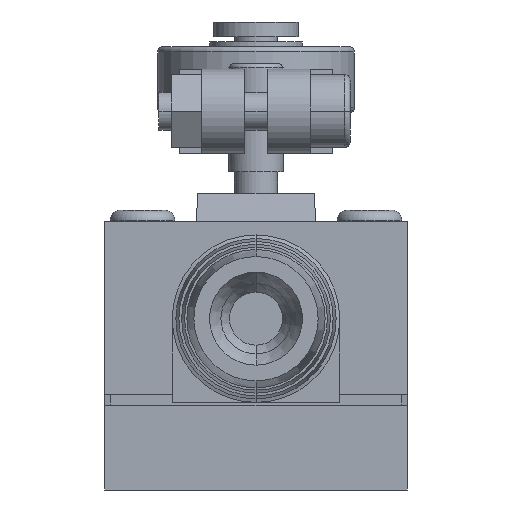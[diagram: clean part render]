
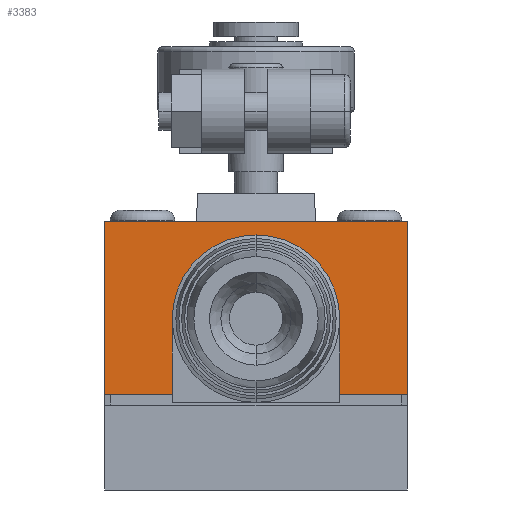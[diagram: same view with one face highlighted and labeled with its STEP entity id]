
A CAD part, front view. The second image highlights one B-rep face of the part: STEP entity #3383.
In plain terms, the highlighted planar face has unit normal (0, -1, 0).
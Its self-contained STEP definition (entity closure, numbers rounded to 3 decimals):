
#112 = VERTEX_POINT ( 'NONE', #13096 ) ;
#381 = FACE_OUTER_BOUND ( 'NONE', #12830, .T. ) ;
#385 = AXIS2_PLACEMENT_3D ( 'NONE', #13300, #13301, #13302 ) ;
#404 = FACE_BOUND ( 'NONE', #12829, .T. ) ;
#1221 = CARTESIAN_POINT ( 'NONE',  ( 0., -22.525, 15.85 ) ) ;
#1225 = DIRECTION ( 'NONE',  ( 0., -1., 0. ) ) ;
#1226 = DIRECTION ( 'NONE',  ( 0., 0., 1. ) ) ;
#1228 = LINE ( 'NONE', #1229, #4369 ) ;
#1229 = CARTESIAN_POINT ( 'NONE',  ( 14., -22.525, 24.8 ) ) ;
#1230 = DIRECTION ( 'NONE',  ( -1., 0., 0. ) ) ;
#1231 = LINE ( 'NONE', #1232, #4367 ) ;
#1232 = CARTESIAN_POINT ( 'NONE',  ( 14., -22.525, 24.8 ) ) ;
#1233 = DIRECTION ( 'NONE',  ( 0., 0., -1. ) ) ;
#1234 = LINE ( 'NONE', #1235, #4364 ) ;
#1235 = CARTESIAN_POINT ( 'NONE',  ( -14., -22.525, 24.8 ) ) ;
#1236 = DIRECTION ( 'NONE',  ( 0., 0., -1. ) ) ;
#1249 = LINE ( 'NONE', #1250, #4350 ) ;
#1250 = CARTESIAN_POINT ( 'NONE',  ( -14., -22.525, 8.85 ) ) ;
#1251 = DIRECTION ( 'NONE',  ( 1., 0., 0. ) ) ;
#3383 = ADVANCED_FACE ( 'NONE', ( #381, #404 ), #13299, .F. ) ;
#3628 = CIRCLE ( 'NONE', #4959, 4.75 ) ;
#3754 = CIRCLE ( 'NONE', #4419, 4.75 ) ;
#4350 = VECTOR ( 'NONE', #1251, 1000. ) ;
#4364 = VECTOR ( 'NONE', #1236, 1000. ) ;
#4367 = VECTOR ( 'NONE', #1233, 1000. ) ;
#4369 = VECTOR ( 'NONE', #1230, 1000. ) ;
#4419 = AXIS2_PLACEMENT_3D ( 'NONE', #1221, #1225, #1226 ) ;
#4665 = EDGE_CURVE ( 'NONE', #6329, #112, #3628, .T. ) ;
#4959 = AXIS2_PLACEMENT_3D ( 'NONE', #8783, #8791, #8793 ) ;
#6329 = VERTEX_POINT ( 'NONE', #9615 ) ;
#6391 = VERTEX_POINT ( 'NONE', #9738 ) ;
#6401 = VERTEX_POINT ( 'NONE', #9758 ) ;
#6450 = VERTEX_POINT ( 'NONE', #9855 ) ;
#6464 = VERTEX_POINT ( 'NONE', #9882 ) ;
#7792 = EDGE_CURVE ( 'NONE', #112, #6329, #3754, .T. ) ;
#7793 = EDGE_CURVE ( 'NONE', #6391, #6450, #1228, .T. ) ;
#7794 = EDGE_CURVE ( 'NONE', #6391, #6401, #1231, .T. ) ;
#7795 = EDGE_CURVE ( 'NONE', #6450, #6464, #1234, .T. ) ;
#7800 = EDGE_CURVE ( 'NONE', #6464, #6401, #1249, .T. ) ;
#8783 = CARTESIAN_POINT ( 'NONE',  ( 0., -22.525, 15.85 ) ) ;
#8791 = DIRECTION ( 'NONE',  ( 0., -1., 0. ) ) ;
#8793 = DIRECTION ( 'NONE',  ( 0., 0., 1. ) ) ;
#9615 = CARTESIAN_POINT ( 'NONE',  ( 0., -22.525, 11.1 ) ) ;
#9738 = CARTESIAN_POINT ( 'NONE',  ( 14., -22.525, 24.8 ) ) ;
#9758 = CARTESIAN_POINT ( 'NONE',  ( 14., -22.525, 8.85 ) ) ;
#9855 = CARTESIAN_POINT ( 'NONE',  ( -14., -22.525, 24.8 ) ) ;
#9882 = CARTESIAN_POINT ( 'NONE',  ( -14., -22.525, 8.85 ) ) ;
#10863 = ORIENTED_EDGE ( 'NONE', *, *, #4665, .F. ) ;
#10864 = ORIENTED_EDGE ( 'NONE', *, *, #7792, .F. ) ;
#10866 = ORIENTED_EDGE ( 'NONE', *, *, #7793, .T. ) ;
#10867 = ORIENTED_EDGE ( 'NONE', *, *, #7800, .T. ) ;
#10868 = ORIENTED_EDGE ( 'NONE', *, *, #7794, .F. ) ;
#10869 = ORIENTED_EDGE ( 'NONE', *, *, #7795, .T. ) ;
#12829 = EDGE_LOOP ( 'NONE', ( #10864, #10863 ) ) ;
#12830 = EDGE_LOOP ( 'NONE', ( #10869, #10867, #10868, #10866 ) ) ;
#13096 = CARTESIAN_POINT ( 'NONE',  ( 0., -22.525, 20.6 ) ) ;
#13299 = PLANE ( 'NONE',  #385 ) ;
#13300 = CARTESIAN_POINT ( 'NONE',  ( 14., -22.525, 24.8 ) ) ;
#13301 = DIRECTION ( 'NONE',  ( 0., 1., 0. ) ) ;
#13302 = DIRECTION ( 'NONE',  ( 0., 0., 1. ) ) ;
